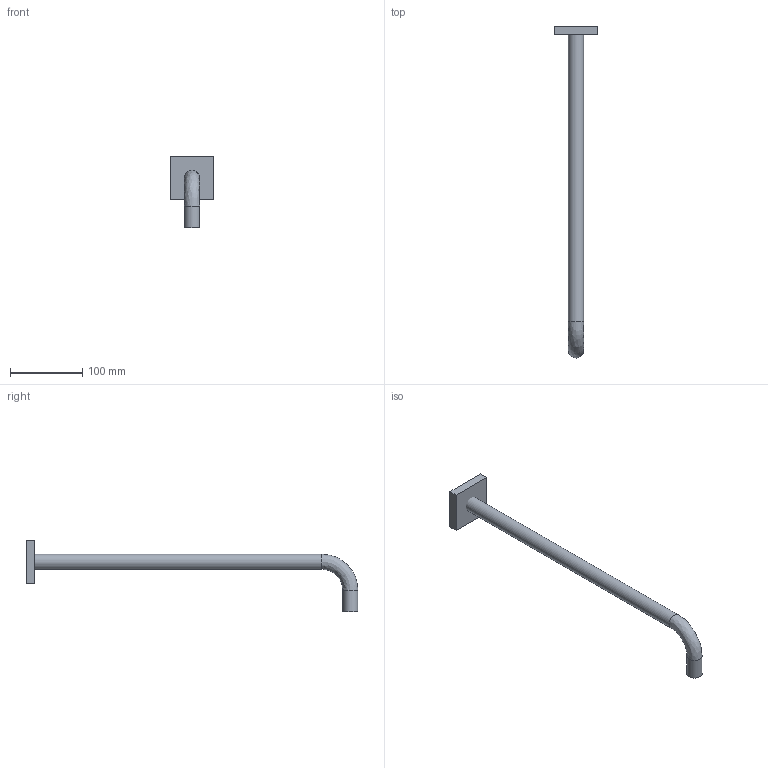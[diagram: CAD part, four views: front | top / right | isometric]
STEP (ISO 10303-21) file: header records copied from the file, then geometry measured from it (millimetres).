
FILE_DESCRIPTION(('STEP AP203'),'2;1');
FILE_NAME('DIS_3D_8108.stp','2021-12-03T13:33:56',(''),(''),'2015.2.119','THINKDESIGN','');
FILE_SCHEMA(('CONFIG_CONTROL_DESIGN'));
Length unit declared in the file: millimetre
Bounding box: 60 x 460.5 x 99.5 mm (x, y, z)
Volume: 217256 mm3; surface area: 43926.8 mm2
Topology: 2 solids, 2 shells, 11 faces, 23 edges, 16 vertices
Faces by surface type: plane 8, cylinder 2, bspline 1
Full cylindrical faces by diameter (mm): 21 x2
Entity records: 415 total; most frequent: CARTESIAN_POINT 76, DIRECTION 52, ORIENTED_EDGE 46, EDGE_CURVE 23, AXIS2_PLACEMENT_3D 19, VERTEX_POINT 16, VECTOR 14, LINE 14
